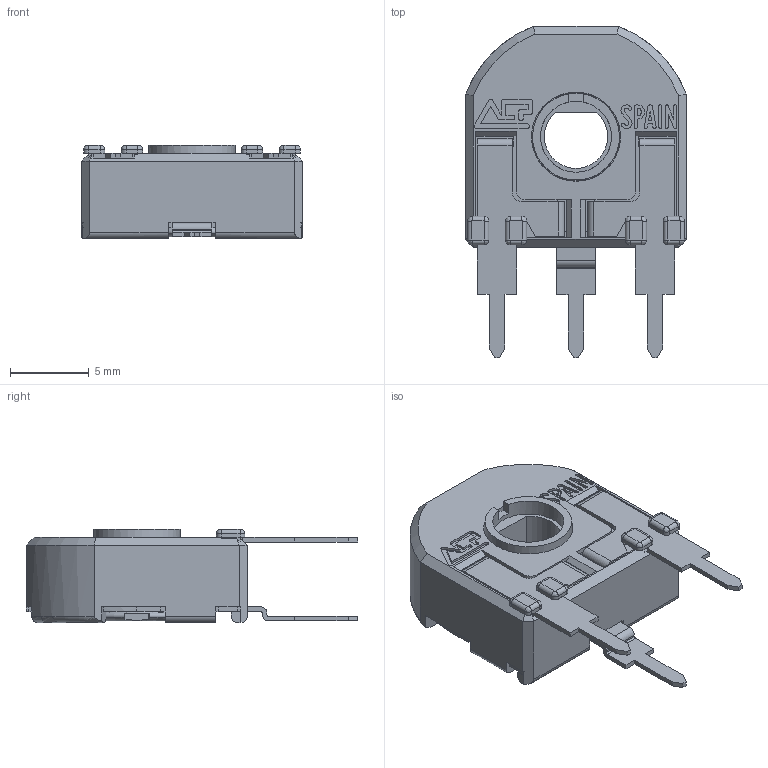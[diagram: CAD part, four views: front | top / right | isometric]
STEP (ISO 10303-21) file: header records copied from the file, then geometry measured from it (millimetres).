
FILE_DESCRIPTION(/* description */ (''),/* implementation_level */ '2;1');
FILE_NAME(/* name */ 'C:\Users\CEM\Desktop\ENVIAR\TRANSICION 3D CATALOGOS\CAR14FH5.stp',/* time_stamp */ '2025-09-22T09:49:32+02:00',/* author */ ('CEM'),/* organization */ (''),/* preprocessor_version */ 'ST-DEVELOPER v17',/* originating_system */ 'Autodesk Inventor 2018',/* authorisation */ '');
FILE_SCHEMA (('AUTOMOTIVE_DESIGN { 1 0 10303 214 3 1 1 }'));
Length unit declared in the file: millimetre
Products named in the file (1): CAR14FH5
Bounding box: 14 x 21 x 5.9 mm (x, y, z)
Volume: 542.1 mm3; surface area: 1518.5 mm2
Topology: 1 solids, 1 shells, 575 faces, 1676 edges, 1073 vertices
Faces by surface type: plane 393, cylinder 139, bspline 20, cone 14, torus 9
Full cylindrical faces by diameter (mm): 1.2 x2, 4.5 x1, 5.5 x1, 5.65 x1, 6.88 x1
Entity records: 19716 total; most frequent: CARTESIAN_POINT 3649, ORIENTED_EDGE 3352, DIRECTION 3149, EDGE_CURVE 1676, LINE 1239, VECTOR 1239, VERTEX_POINT 1073, AXIS2_PLACEMENT_3D 955
